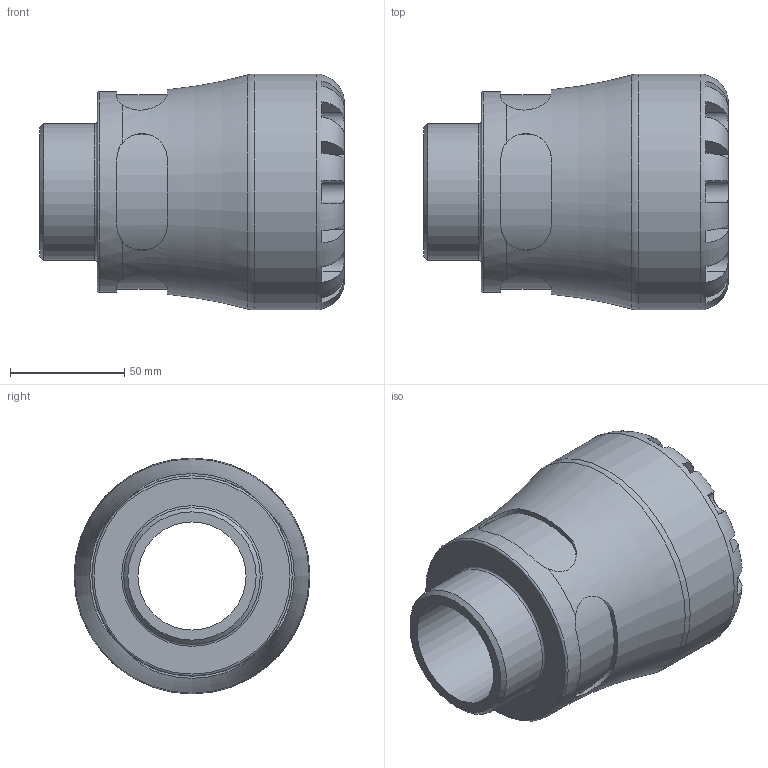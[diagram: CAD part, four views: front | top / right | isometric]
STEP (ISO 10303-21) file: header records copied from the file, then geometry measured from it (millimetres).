
FILE_DESCRIPTION(/* description */ ('PLASSON G-PLASS Male Adaptor 63X 2'''''),/* implementation_level */ '2;1');
FILE_NAME(/* name */ 'C:\Dropbox\KIMPROJECTS-Inventor 2019\99-16-3568-Processing\S1\150200\stp\150200063020.stp',/* time_stamp */ '2023-10-17T19:15:02+03:00',/* author */ ('KIM'),/* organization */ (''),/* preprocessor_version */ 'ST-DEVELOPER v17.2',/* originating_system */ 'Autodesk Inventor 2019',/* authorisation */ '');
FILE_SCHEMA (('AUTOMOTIVE_DESIGN { 1 0 10303 214 3 1 1 }'));
Length unit declared in the file: millimetre
Products named in the file (1): 150200063020
Bounding box: 133 x 103 x 103 mm (x, y, z)
Volume: 465037.7 mm3; surface area: 74317.3 mm2
Topology: 1 solids, 1 shells, 108 faces, 297 edges, 193 vertices
Faces by surface type: plane 68, cylinder 33, torus 5, cone 2
Full cylindrical faces by diameter (mm): 47.25 x1, 59.614 x1, 63 x1, 87.55 x1, 103 x1
Entity records: 4383 total; most frequent: CARTESIAN_POINT 1559, ORIENTED_EDGE 594, DIRECTION 557, EDGE_CURVE 297, AXIS2_PLACEMENT_3D 231, VERTEX_POINT 193, CIRCLE 122, EDGE_LOOP 112
